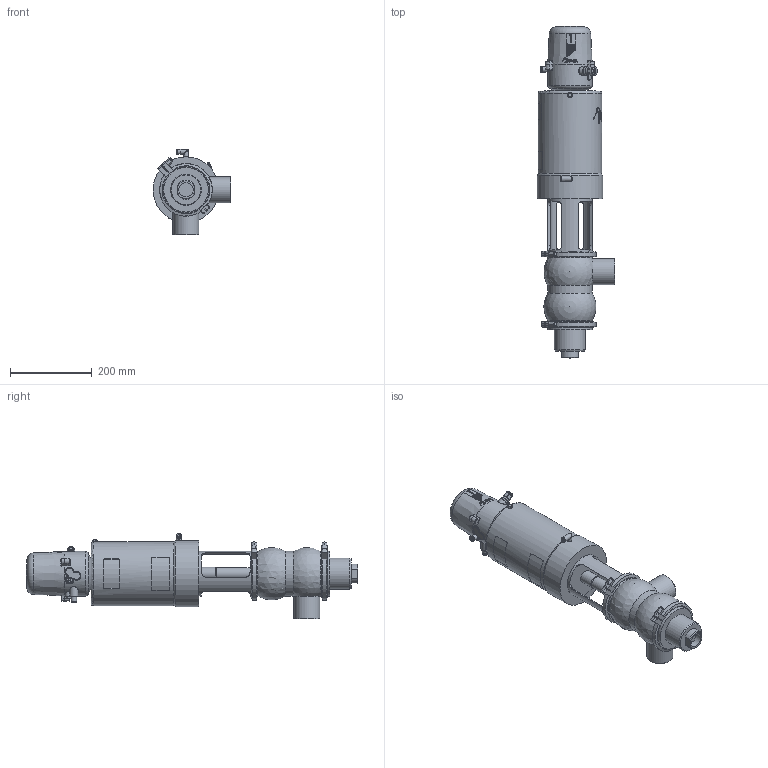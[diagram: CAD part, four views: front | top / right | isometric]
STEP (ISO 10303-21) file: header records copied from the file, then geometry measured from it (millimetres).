
FILE_DESCRIPTION (( 'STEP AP214' ), '1' );
FILE_NAME ('INNOVA S DB-90 W OD 2½ & C-TOP S_10.251.16.0018.STEP', '2024-08-19T10:27:34', ( '' ), ( '' ), 'SwSTEP 2.0', 'SolidWorks 2023', '' );
FILE_SCHEMA (( 'AUTOMOTIVE_DESIGN' ));
Length unit declared in the file: millimetre
Products named in the file (7): 10.251.15.0002_DN 2½"; 10.426.15.0001_C-TOP S - 1 EV; 10.251.15.0001_OD 2½"; 10.250.15.0002_Type S T2; INNOVA S DB-90 W OD 2½ & C-TOP S_10.251.16.0018; 10.240.15.0001_DN 065; 10.251.15.0010_OD 2½"
Assembly tree (7 placements, depth 2):
  INNOVA S DB-90 W OD 2½ & C-TOP S_10.251.16.0018
    10.251.15.0001_OD 2½"
    10.250.15.0002_Type S T2
    10.426.15.0001_C-TOP S - 1 EV
    10.251.15.0010_OD 2½"
    10.240.15.0001_DN 065  x2
    10.251.15.0002_DN 2½"
Bounding box: 190.5 x 811.8 x 209 mm (x, y, z)
Volume: 9241290.2 mm3; surface area: 557215.3 mm2
Topology: 7 solids, 7 shells, 1184 faces, 2857 edges, 1898 vertices
Faces by surface type: plane 412, cylinder 369, cone 202, bspline 160, torus 33, sphere 8
Full cylindrical faces by diameter (mm): 0.371 x17, 0.512 x16, 0.658 x16, 0.795 x16, 0.94 x15, 1.098 x15, 1.241 x13, 1.382 x13, 1.523 x11, 1.669 x10, 2.201 x1, 4.2 x2, 5 x1, 5.5 x2, 6 x3, 6.15 x1, 8 x5, 8.5 x1, 10 x1, 10.5 x2, 11 x2, 12.5 x6, 13 x2, 13.5 x2, 17 x3, 20 x2, 22 x2, 30.5 x1, 32 x1, 35 x1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
Entity records: 59208 total; most frequent: CARTESIAN_POINT 28513, ORIENTED_EDGE 4578, DIRECTION 3687, EDGE_CURVE 2289, VERTEX_POINT 1621, EDGE_LOOP 1578, AXIS2_PLACEMENT_3D 1504, FACE_OUTER_BOUND 1339
